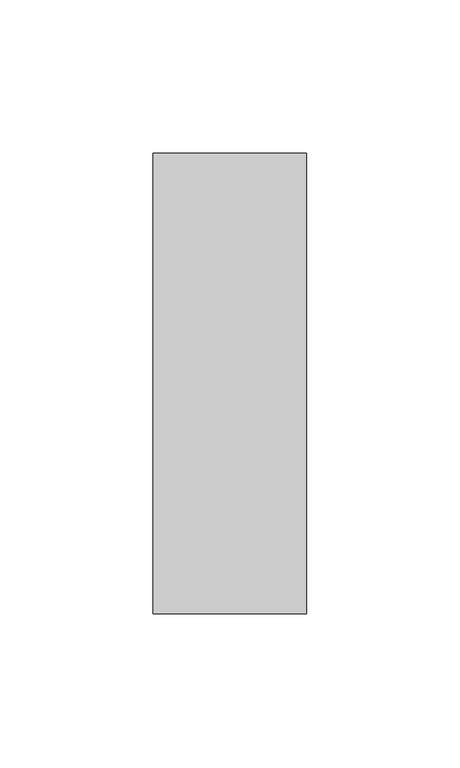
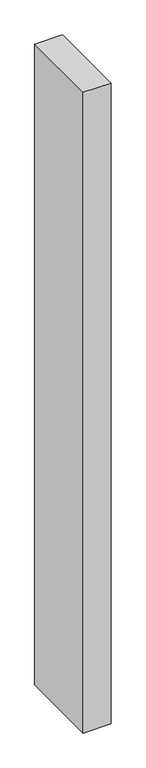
"""IFC4 building model written with IfcOpenShell, lengths in millimetres: member geometry, Прямоугольный импост : 50 x 150 мм."""

import ifcopenshell
import ifcopenshell.guid

model = None  # the IFC model being written
_history = None  # IfcOwnerHistory: only IFC2X3 demands one
_inside = {}  # id of a spatial element -> (the spatial element, [elements in it])
_under = {}  # id of a project, library or spatial element -> (it, [spatial elements below it])
_declared = {}  # id of a project -> (the project, [libraries it declares])
_typed = {}  # id of a type object -> (the type object, [elements of that type])
_made_of = {}  # id of a material, layer set ... -> (it, [elements and type objects made of it])


def new_model(schema):
    """Start an empty IFC model of exactly this schema.

    Asked for "IFC4X3", IfcOpenShell would pick the latest addendum, in which some entities
    have other attributes; the version numbers below select the first issue.
    IFC2X3 requires an IfcOwnerHistory on every rooted entity: one is made here for all.
    """
    global model, _history
    if schema == "IFC4X3":
        model = ifcopenshell.file(schema_version=(4, 3, 0, 0))
    else:
        model = ifcopenshell.file(schema=schema)
    _inside.clear()
    _under.clear()
    _declared.clear()
    _typed.clear()
    _made_of.clear()
    _history = None
    if model.schema == "IFC2X3":
        org = make("IfcOrganization", Name="unknown")
        user = make(
            "IfcPersonAndOrganization",
            ThePerson=make("IfcPerson", FamilyName="unknown"),
            TheOrganization=org,
        )
        app = make(
            "IfcApplication",
            ApplicationDeveloper=org,
            Version="unknown",
            ApplicationFullName="unknown",
            ApplicationIdentifier="unknown",
        )
        _history = make(
            "IfcOwnerHistory",
            OwningUser=user,
            OwningApplication=app,
            ChangeAction="ADDED",
            CreationDate=0,
        )
    return model


def make(cls, **values):
    """One entity of the class cls with the attributes given. An attribute that is None is left unset."""
    return model.create_entity(
        cls, **{name: value for name, value in values.items() if value is not None}
    )


def rooted(cls, **values):
    """An entity with a GlobalId (a new one), such as an element, a storey or a relation."""
    return make(cls, GlobalId=ifcopenshell.guid.new(), OwnerHistory=_history, **values)


def si_unit(unit_type, name, prefix=None):
    """IfcSIUnit, for example si_unit("LENGTHUNIT", "METRE", prefix="MILLI")."""
    return make("IfcSIUnit", UnitType=unit_type, Prefix=prefix, Name=name)


def assignment(units):
    """IfcUnitAssignment: the units of a project."""
    return None if units is None else make("IfcUnitAssignment", Units=units)


def point(xyz):
    """IfcCartesianPoint."""
    return None if xyz is None else make("IfcCartesianPoint", Coordinates=xyz)


def direction(xyz):
    """IfcDirection."""
    return None if xyz is None else make("IfcDirection", DirectionRatios=xyz)


def frame(location, z_axis=None, x_axis=None):
    """IfcAxis2Placement3D, a coordinate frame: its origin and axes. An axis left out is left unset."""
    return make(
        "IfcAxis2Placement3D",
        Location=point(location),
        Axis=direction(z_axis),
        RefDirection=direction(x_axis),
    )


def origin():
    """The frame at (0, 0, 0) with its axes left unset."""
    return frame((0.0, 0.0, 0.0))


def place(relative_to, where):
    """IfcLocalPlacement: puts the frame where relative to a parent placement (None: the world)."""
    return make(
        "IfcLocalPlacement", PlacementRelTo=relative_to, RelativePlacement=where
    )


def context(
    kind, dimensions, precision=None, world=None, true_north=None, identifier=None
):
    """IfcGeometricRepresentationContext, for example the 3D "Model" context."""
    return make(
        "IfcGeometricRepresentationContext",
        ContextIdentifier=identifier,
        ContextType=kind,
        CoordinateSpaceDimension=dimensions,
        Precision=precision,
        WorldCoordinateSystem=world,
        TrueNorth=true_north,
    )


def project(units=None, contexts=None):
    """IfcProject with its units and contexts."""
    return rooted(
        "IfcProject",
        Name="project",
        RepresentationContexts=contexts,
        UnitsInContext=assignment(units),
    )


def spatial(cls, under=None, at=None, **own):
    """A site, building, storey or space (cls), placed at a placement, below another one or the project."""
    s = rooted(cls, ObjectPlacement=at, **own)
    if under is not None:
        _under.setdefault(under.id(), (under, []))[1].append(s)
    return s


def polyline(points):
    """IfcPolyline through the points."""
    return make("IfcPolyline", Points=[point(p) for p in points])


def outline(outer, holes=None, kind="AREA"):
    """IfcArbitraryClosedProfileDef: a profile drawn as a closed curve; with holes, ...WithVoids."""
    if holes is None:
        return make("IfcArbitraryClosedProfileDef", ProfileType=kind, OuterCurve=outer)
    return make(
        "IfcArbitraryProfileDefWithVoids",
        ProfileType=kind,
        OuterCurve=outer,
        InnerCurves=holes,
    )


def extrude(swept, where, along, depth):
    """IfcExtrudedAreaSolid: the profile swept, set in the frame where, extruded along a direction by depth."""
    return make(
        "IfcExtrudedAreaSolid",
        SweptArea=swept,
        Position=where,
        ExtrudedDirection=direction(along),
        Depth=depth,
    )


def shape(context_of_items, identifier, shape_type, items):
    """IfcShapeRepresentation: the items that make up one representation, for example the "Body"."""
    return make(
        "IfcShapeRepresentation",
        ContextOfItems=context_of_items,
        RepresentationIdentifier=identifier,
        RepresentationType=shape_type,
        Items=items,
    )


def source(mapping_origin, context_of_items, identifier, shape_type, items):
    """IfcRepresentationMap: a shape defined once, which mapped items show again and again."""
    return make(
        "IfcRepresentationMap",
        MappingOrigin=mapping_origin,
        MappedRepresentation=shape(context_of_items, identifier, shape_type, items),
    )


def transform(
    local_origin,
    x_axis=None,
    y_axis=None,
    z_axis=None,
    scale=None,
    scale2=None,
    scale3=None,
    uniform=True,
):
    """IfcCartesianTransformationOperator3D, or its non-uniform kind. x_axis, y_axis, z_axis: its Axis1, 2, 3."""
    if uniform:
        return make(
            "IfcCartesianTransformationOperator3D",
            Axis1=direction(x_axis),
            Axis2=direction(y_axis),
            LocalOrigin=point(local_origin),
            Scale=scale,
            Axis3=direction(z_axis),
        )
    return make(
        "IfcCartesianTransformationOperator3DnonUniform",
        Axis1=direction(x_axis),
        Axis2=direction(y_axis),
        LocalOrigin=point(local_origin),
        Scale=scale,
        Axis3=direction(z_axis),
        Scale2=scale2,
        Scale3=scale3,
    )


def mapped(mapping_source, mapping_target):
    """IfcMappedItem: shows the shape of a source again, moved by a transform."""
    return make(
        "IfcMappedItem", MappingSource=mapping_source, MappingTarget=mapping_target
    )


def made_of(thing, what):
    """Note that an element or type object is made of a material, layer set ...; save() writes the relation."""
    if what is not None:
        _made_of.setdefault(what.id(), (what, []))[1].append(thing)
    return thing


def element(
    cls,
    number,
    at=None,
    inside=None,
    cuts=None,
    type_object=None,
    material=None,
    context=None,
    identifier="Body",
    shape_type=None,
    held_by="IfcProductDefinitionShape",
    body=None,
    shapes=None,
    **own,
):
    """One element of the class cls, such as IfcWall. Its Tag is "e" and its number.

    at: its placement. inside: the storey or other place that contains it. cuts: it is an
    opening in that element (IfcRelVoidsElement). A single representation is given by context,
    identifier, shape_type and body (its items); several are given by shapes. held_by: the class
    of the entity that holds the representations. save() writes the other relations.
    """
    e = rooted(cls, Tag="e%d" % number, ObjectPlacement=at, **own)
    if body is not None:
        shapes = [shape(context, identifier, shape_type, body)]
    if shapes is not None:
        e.Representation = make(held_by, Representations=shapes)
    if inside is not None:
        _inside.setdefault(inside.id(), (inside, []))[1].append(e)
    if cuts is not None:
        rooted(
            "IfcRelVoidsElement", RelatingBuildingElement=cuts, RelatedOpeningElement=e
        )
    if type_object is not None:
        _typed.setdefault(type_object.id(), (type_object, []))[1].append(e)
    return made_of(e, material)


def aggregate(whole, parts):
    """IfcRelAggregates: a whole, such as a stair, and the parts it consists of."""
    return rooted("IfcRelAggregates", RelatingObject=whole, RelatedObjects=parts)


def save(model, path):
    """Write the relations noted so far, then the file.

    IfcRelAggregates (storeys below a building ...), IfcRelContainedInSpatialStructure (elements
    in a storey), IfcRelDefinesByType, IfcRelAssociatesMaterial and IfcRelDeclares: one each for
    every whole, place, type object, material and project.
    """
    for whole, parts in _under.values():
        aggregate(whole, parts)
    for where, things in _inside.values():
        rooted(
            "IfcRelContainedInSpatialStructure",
            RelatedElements=things,
            RelatingStructure=where,
        )
    for kind, things in _typed.values():
        rooted("IfcRelDefinesByType", RelatedObjects=things, RelatingType=kind)
    for what, things in _made_of.values():
        rooted("IfcRelAssociatesMaterial", RelatedObjects=things, RelatingMaterial=what)
    for by, libraries in _declared.values():
        rooted("IfcRelDeclares", RelatingContext=by, RelatedDefinitions=libraries)
    model.write(path)


def member_dcbffc2e(model_context):
    return source(origin(), model_context, "Body", "SweptSolid", [
        extrude(outline(polyline([(25.0, 75.0), (25.0, -75.0), (-25.0, -75.0), (-25.0, 75.0), (25.0, 75.0)])), frame((0.0, 0.0, -1208.6164986), z_axis=(0.0, 0.0, 1.0), x_axis=(1.0, 0.0, 0.0)), (0.0, 0.0, 1.0), 1208.6164986),
    ])


if __name__ == "__main__":
    model = new_model("IFC4")
    model_context = context("Model", 3, world=origin())
    ifc_project = project(units=[si_unit("LENGTHUNIT", "METRE", prefix="MILLI")], contexts=[model_context])
    site = spatial("IfcSite", under=ifc_project)
    building = spatial("IfcBuilding", under=site)
    placement = place(None, origin())
    member_shape = member_dcbffc2e(model_context)
    element("IfcMember", 1, ObjectType="Прямоугольный импост : 50 x 150 мм", at=placement, inside=building, context=model_context, shape_type="MappedRepresentation", body=[
        mapped(member_shape, transform((0.0, 0.0, 0.0), x_axis=(1.0, 0.0, 0.0), y_axis=(0.0, 1.0, 0.0), z_axis=(0.0, 0.0, 1.0))),
    ])
    save(model, "model.ifc")
